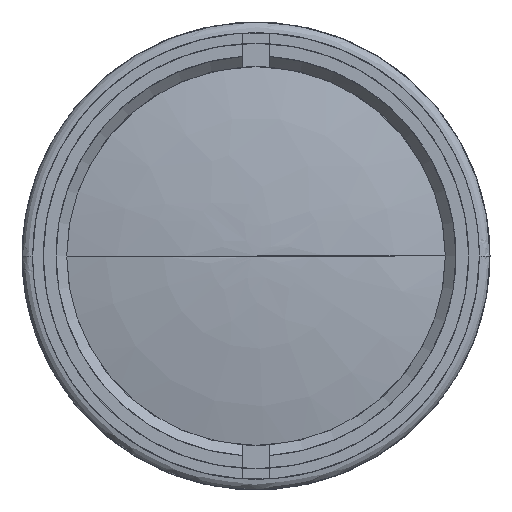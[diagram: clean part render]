
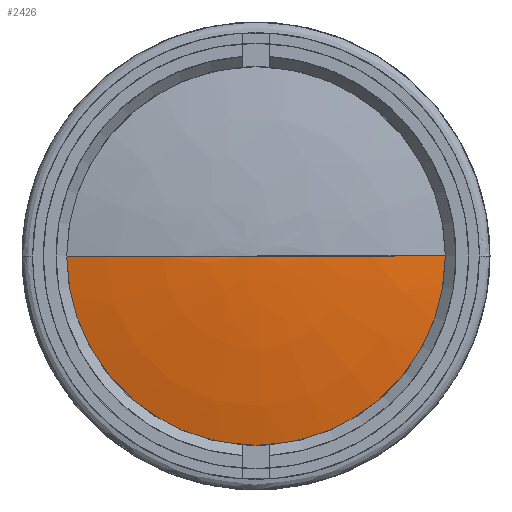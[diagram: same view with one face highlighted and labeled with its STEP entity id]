
A CAD part, left-side view. The second image highlights one B-rep face of the part: STEP entity #2426.
In plain terms, the highlighted face is a revolution surface.
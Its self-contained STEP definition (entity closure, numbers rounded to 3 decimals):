
#2426 = ADVANCED_FACE('',(#2427),#2445,.T.);
#2427 = FACE_BOUND('',#2428,.T.);
#2428 = EDGE_LOOP('',(#2429,#2459,#2478,#2497));
#2429 = ORIENTED_EDGE('',*,*,#2430,.F.);
#2430 = EDGE_CURVE('',#2431,#2433,#2435,.T.);
#2431 = VERTEX_POINT('',#2432);
#2432 = CARTESIAN_POINT('',(-78.884,0.,
    0.));
#2433 = VERTEX_POINT('',#2434);
#2434 = CARTESIAN_POINT('',(-76.683,19.5,
    0.));
#2435 = SURFACE_CURVE('',#2436,(#2444),.PCURVE_S1.);
#2436 = ( BOUNDED_CURVE() B_SPLINE_CURVE(6,(#2437,#2438,#2439,#2440,
#2441,#2442,#2443),.UNSPECIFIED.,.F.,.F.) B_SPLINE_CURVE_WITH_KNOTS((7,7
),(0.,1.),.PIECEWISE_BEZIER_KNOTS.) CURVE() 
GEOMETRIC_REPRESENTATION_ITEM() RATIONAL_B_SPLINE_CURVE((1.001,
    1.,1.,1.,1.,
1.,1.001)) REPRESENTATION_ITEM('') );
#2437 = CARTESIAN_POINT('',(-78.884,0.,
    0.));
#2438 = CARTESIAN_POINT('',(-78.884,3.279,
    0.));
#2439 = CARTESIAN_POINT('',(-78.737,6.556,
    0.));
#2440 = CARTESIAN_POINT('',(-78.442,9.824,
    0.));
#2441 = CARTESIAN_POINT('',(-78.001,13.076,
    0.));
#2442 = CARTESIAN_POINT('',(-77.414,16.304,
    0.));
#2443 = CARTESIAN_POINT('',(-76.683,19.5,
    0.));
#2444 = PCURVE('',#2445,#2454);
#2445 = SURFACE_OF_REVOLUTION('',#2446,#2451);
#2446 = CIRCLE('',#2447,87.5);
#2447 = AXIS2_PLACEMENT_3D('',#2448,#2449,#2450);
#2448 = CARTESIAN_POINT('',(8.616,0.,0.));
#2449 = DIRECTION('',(-0.,0.,1.));
#2450 = DIRECTION('',(1.,0.,0.));
#2451 = AXIS1_PLACEMENT('',#2452,#2453);
#2452 = CARTESIAN_POINT('',(8.616,0.,0.));
#2453 = DIRECTION('',(1.,0.,0.));
#2454 = DEFINITIONAL_REPRESENTATION('',(#2455),#2458);
#2455 = B_SPLINE_CURVE_WITH_KNOTS('',1,(#2456,#2457),.UNSPECIFIED.,.F.,
  .F.,(2,2),(0.,1.),.PIECEWISE_BEZIER_KNOTS.);
#2456 = CARTESIAN_POINT('',(6.283,3.142));
#2457 = CARTESIAN_POINT('',(6.283,2.917));
#2458 = ( GEOMETRIC_REPRESENTATION_CONTEXT(2) 
PARAMETRIC_REPRESENTATION_CONTEXT() REPRESENTATION_CONTEXT('',''
  ) );
#2459 = ORIENTED_EDGE('',*,*,#2460,.F.);
#2460 = EDGE_CURVE('',#2461,#2431,#2463,.T.);
#2461 = VERTEX_POINT('',#2462);
#2462 = CARTESIAN_POINT('',(-78.884,0.,
    0.));
#2463 = SURFACE_CURVE('',#2464,(#2472),.PCURVE_S1.);
#2464 = ( BOUNDED_CURVE() B_SPLINE_CURVE(6,(#2465,#2466,#2467,#2468,
#2469,#2470,#2471),.UNSPECIFIED.,.F.,.F.) B_SPLINE_CURVE_WITH_KNOTS((7,7
),(0.,1.),.PIECEWISE_BEZIER_KNOTS.) CURVE() 
GEOMETRIC_REPRESENTATION_ITEM() RATIONAL_B_SPLINE_CURVE((1.133,
    1.036,0.992,0.976,0.992,
1.036,1.133)) REPRESENTATION_ITEM('') );
#2465 = CARTESIAN_POINT('',(-78.884,0.,
    0.));
#2466 = CARTESIAN_POINT('',(-78.884,0.,
    0.));
#2467 = CARTESIAN_POINT('',(-78.884,0.,
    0.));
#2468 = CARTESIAN_POINT('',(-78.884,0.,
    0.));
#2469 = CARTESIAN_POINT('',(-78.884,0.,
    0.));
#2470 = CARTESIAN_POINT('',(-78.884,0.,
    0.));
#2471 = CARTESIAN_POINT('',(-78.884,0.,
    0.));
#2472 = PCURVE('',#2445,#2473);
#2473 = DEFINITIONAL_REPRESENTATION('',(#2474),#2477);
#2474 = B_SPLINE_CURVE_WITH_KNOTS('',1,(#2475,#2476),.UNSPECIFIED.,.F.,
  .F.,(2,2),(0.,1.),.PIECEWISE_BEZIER_KNOTS.);
#2475 = CARTESIAN_POINT('',(3.142,3.142));
#2476 = CARTESIAN_POINT('',(6.283,3.142));
#2477 = ( GEOMETRIC_REPRESENTATION_CONTEXT(2) 
PARAMETRIC_REPRESENTATION_CONTEXT() REPRESENTATION_CONTEXT('',''
  ) );
#2478 = ORIENTED_EDGE('',*,*,#2479,.F.);
#2479 = EDGE_CURVE('',#2480,#2461,#2482,.T.);
#2480 = VERTEX_POINT('',#2481);
#2481 = CARTESIAN_POINT('',(-76.683,-19.5,
    0.));
#2482 = SURFACE_CURVE('',#2483,(#2491),.PCURVE_S1.);
#2483 = ( BOUNDED_CURVE() B_SPLINE_CURVE(6,(#2484,#2485,#2486,#2487,
#2488,#2489,#2490),.UNSPECIFIED.,.F.,.F.) B_SPLINE_CURVE_WITH_KNOTS((7,7
),(0.,1.),.PIECEWISE_BEZIER_KNOTS.) CURVE() 
GEOMETRIC_REPRESENTATION_ITEM() RATIONAL_B_SPLINE_CURVE((1.001,
    1.,1.,1.,1.,
1.,1.001)) REPRESENTATION_ITEM('') );
#2484 = CARTESIAN_POINT('',(-76.683,-19.5,
    0.));
#2485 = CARTESIAN_POINT('',(-77.414,-16.304,
    0.));
#2486 = CARTESIAN_POINT('',(-78.001,-13.076,
    0.));
#2487 = CARTESIAN_POINT('',(-78.442,-9.824,
    0.));
#2488 = CARTESIAN_POINT('',(-78.737,-6.556,
    0.));
#2489 = CARTESIAN_POINT('',(-78.884,-3.279,
    0.));
#2490 = CARTESIAN_POINT('',(-78.884,0.,
    0.));
#2491 = PCURVE('',#2445,#2492);
#2492 = DEFINITIONAL_REPRESENTATION('',(#2493),#2496);
#2493 = B_SPLINE_CURVE_WITH_KNOTS('',1,(#2494,#2495),.UNSPECIFIED.,.F.,
  .F.,(2,2),(0.,1.),.PIECEWISE_BEZIER_KNOTS.);
#2494 = CARTESIAN_POINT('',(3.142,2.917));
#2495 = CARTESIAN_POINT('',(3.142,3.142));
#2496 = ( GEOMETRIC_REPRESENTATION_CONTEXT(2) 
PARAMETRIC_REPRESENTATION_CONTEXT() REPRESENTATION_CONTEXT('',''
  ) );
#2497 = ORIENTED_EDGE('',*,*,#2498,.F.);
#2498 = EDGE_CURVE('',#2433,#2480,#2499,.T.);
#2499 = SURFACE_CURVE('',#2500,(#2511),.PCURVE_S1.);
#2500 = B_SPLINE_CURVE_WITH_KNOTS('',9,(#2501,#2502,#2503,#2504,#2505,
    #2506,#2507,#2508,#2509,#2510),.UNSPECIFIED.,.F.,.F.,(10,10),(0.,1.)
  ,.PIECEWISE_BEZIER_KNOTS.);
#2501 = CARTESIAN_POINT('',(-76.683,19.5,
    0.));
#2502 = CARTESIAN_POINT('',(-76.683,19.5,
    -6.807));
#2503 = CARTESIAN_POINT('',(-76.683,16.827,
    -13.614));
#2504 = CARTESIAN_POINT('',(-76.683,11.481,
    -19.22));
#2505 = CARTESIAN_POINT('',(-76.683,4.09,
    -22.43));
#2506 = CARTESIAN_POINT('',(-76.683,-4.09,
    -22.43));
#2507 = CARTESIAN_POINT('',(-76.683,-11.481,
    -19.22));
#2508 = CARTESIAN_POINT('',(-76.683,-16.827,
    -13.614));
#2509 = CARTESIAN_POINT('',(-76.683,-19.5,
    -6.807));
#2510 = CARTESIAN_POINT('',(-76.683,-19.5,
    0.));
#2511 = PCURVE('',#2445,#2512);
#2512 = DEFINITIONAL_REPRESENTATION('',(#2513),#2516);
#2513 = B_SPLINE_CURVE_WITH_KNOTS('',1,(#2514,#2515),.UNSPECIFIED.,.F.,
  .F.,(2,2),(0.,1.),.PIECEWISE_BEZIER_KNOTS.);
#2514 = CARTESIAN_POINT('',(6.283,2.917));
#2515 = CARTESIAN_POINT('',(3.142,2.917));
#2516 = ( GEOMETRIC_REPRESENTATION_CONTEXT(2) 
PARAMETRIC_REPRESENTATION_CONTEXT() REPRESENTATION_CONTEXT('',''
  ) );
